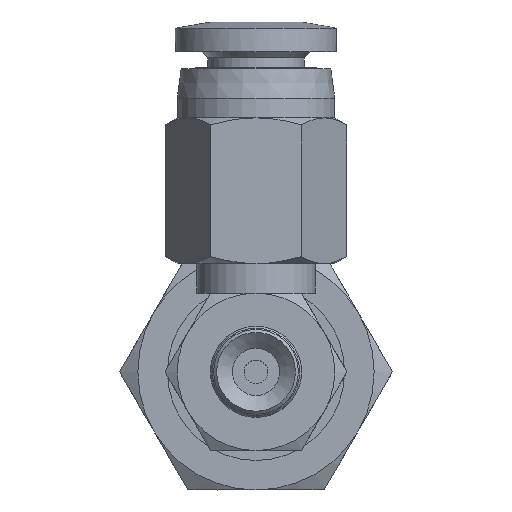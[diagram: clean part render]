
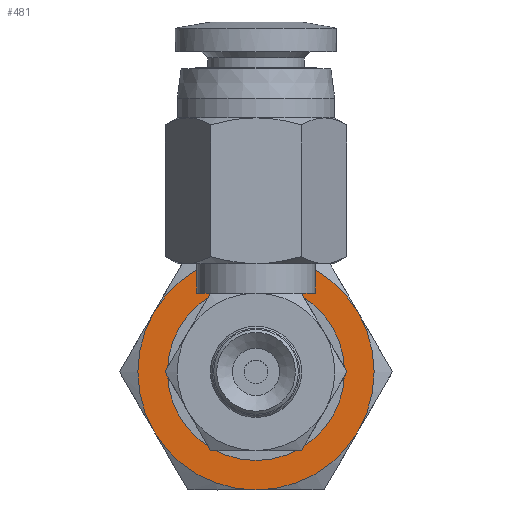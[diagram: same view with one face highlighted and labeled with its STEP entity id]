
A CAD part, front view. The second image highlights one B-rep face of the part: STEP entity #481.
In plain terms, the highlighted planar face has unit normal (0, -1, 0) as drawn and (-1, 0, 0) by its records, which use the part's own axes.
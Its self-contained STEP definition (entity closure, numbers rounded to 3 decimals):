
#481=ADVANCED_FACE('',(#680,#681),#682,.F.);
#680=FACE_BOUND('',#1092,.T.);
#681=FACE_OUTER_BOUND('',#1093,.T.);
#682=PLANE('',#1094);
#1092=EDGE_LOOP('',(#1834));
#1093=EDGE_LOOP('',(#1835,#1836,#1837,#1838,#1839,#1840));
#1094=AXIS2_PLACEMENT_3D('',#1841,#1842,#1843);
#1834=ORIENTED_EDGE('',*,*,#2807,.T.);
#1835=ORIENTED_EDGE('',*,*,#2800,.F.);
#1836=ORIENTED_EDGE('',*,*,#2776,.F.);
#1837=ORIENTED_EDGE('',*,*,#2768,.F.);
#1838=ORIENTED_EDGE('',*,*,#2808,.F.);
#1839=ORIENTED_EDGE('',*,*,#2796,.F.);
#1840=ORIENTED_EDGE('',*,*,#2797,.F.);
#1841=CARTESIAN_POINT('',(0.,0.0,0.0));
#1842=DIRECTION('',(1.0,0.0,0.0));
#1843=DIRECTION('',(0.0,1.0,0.0));
#2768=EDGE_CURVE('',#3083,#3084,#3085,.T.);
#2776=EDGE_CURVE('',#3084,#3098,#3099,.T.);
#2796=EDGE_CURVE('',#3131,#3120,#3133,.T.);
#2797=EDGE_CURVE('',#3134,#3131,#3135,.T.);
#2800=EDGE_CURVE('',#3098,#3134,#3139,.T.);
#2807=EDGE_CURVE('',#3146,#3146,#3147,.T.);
#2808=EDGE_CURVE('',#3120,#3083,#3148,.T.);
#3083=VERTEX_POINT('',#3609);
#3084=VERTEX_POINT('',#3610);
#3085=CIRCLE('',#3611,6.0);
#3098=VERTEX_POINT('',#3676);
#3099=CIRCLE('',#3677,6.0);
#3120=VERTEX_POINT('',#3771);
#3131=VERTEX_POINT('',#3842);
#3133=CIRCLE('',#3854,6.0);
#3134=VERTEX_POINT('',#3855);
#3135=CIRCLE('',#3856,6.0);
#3139=CIRCLE('',#3880,6.0);
#3146=VERTEX_POINT('',#3917);
#3147=CIRCLE('',#3918,4.0);
#3148=CIRCLE('',#3919,6.0);
#3609=CARTESIAN_POINT('',(0.,-5.196,-3.0));
#3610=CARTESIAN_POINT('',(0.,0.0,-6.0));
#3611=AXIS2_PLACEMENT_3D('',#4790,#4791,#4792);
#3676=CARTESIAN_POINT('',(0.,5.196,-3.0));
#3677=AXIS2_PLACEMENT_3D('',#4795,#4796,#4797);
#3771=CARTESIAN_POINT('',(0.,-5.196,3.0));
#3842=CARTESIAN_POINT('',(0.,0.0,6.0));
#3854=AXIS2_PLACEMENT_3D('',#4807,#4808,#4809);
#3855=CARTESIAN_POINT('',(0.,5.196,3.0));
#3856=AXIS2_PLACEMENT_3D('',#4810,#4811,#4812);
#3880=AXIS2_PLACEMENT_3D('',#4813,#4814,#4815);
#3917=CARTESIAN_POINT('',(0.,0.0,-4.0));
#3918=AXIS2_PLACEMENT_3D('',#4825,#4826,#4827);
#3919=AXIS2_PLACEMENT_3D('',#4828,#4829,#4830);
#4790=CARTESIAN_POINT('',(0.,0.0,0.0));
#4791=DIRECTION('',(1.0,0.0,0.0));
#4792=DIRECTION('',(0.0,0.0,-1.0));
#4795=CARTESIAN_POINT('',(0.,0.0,0.0));
#4796=DIRECTION('',(1.0,0.0,0.0));
#4797=DIRECTION('',(0.0,0.0,-1.0));
#4807=CARTESIAN_POINT('',(0.,0.0,0.0));
#4808=DIRECTION('',(1.0,0.0,0.0));
#4809=DIRECTION('',(0.0,0.0,-1.0));
#4810=CARTESIAN_POINT('',(0.,0.0,0.0));
#4811=DIRECTION('',(1.0,0.0,0.0));
#4812=DIRECTION('',(0.0,0.0,-1.0));
#4813=CARTESIAN_POINT('',(0.,0.0,0.0));
#4814=DIRECTION('',(1.0,0.0,0.0));
#4815=DIRECTION('',(0.0,0.0,-1.0));
#4825=CARTESIAN_POINT('',(0.,0.0,0.0));
#4826=DIRECTION('',(1.0,0.0,0.0));
#4827=DIRECTION('',(0.0,0.0,-1.0));
#4828=CARTESIAN_POINT('',(0.,0.0,0.0));
#4829=DIRECTION('',(1.0,0.0,0.0));
#4830=DIRECTION('',(0.0,0.0,-1.0));
